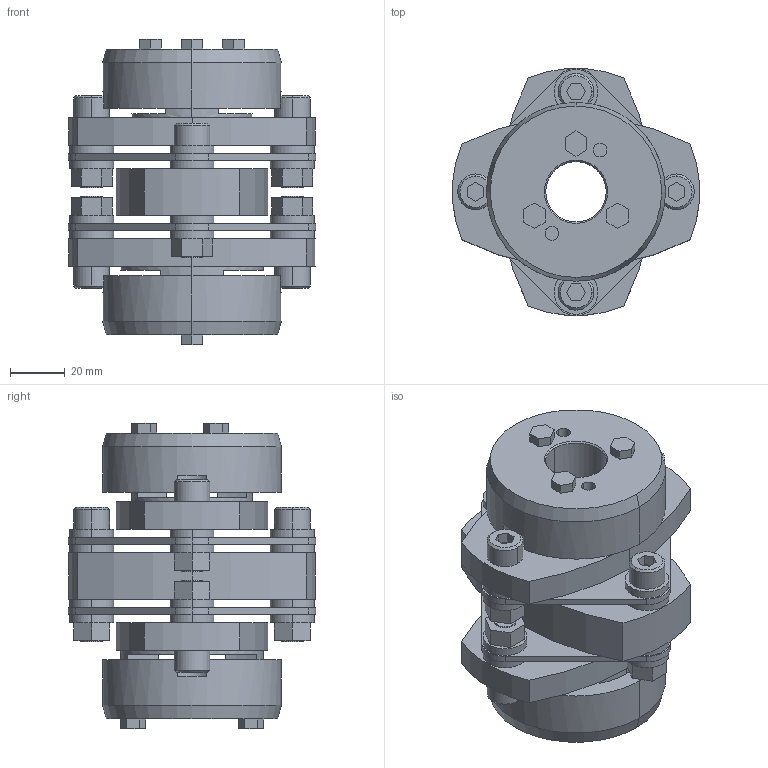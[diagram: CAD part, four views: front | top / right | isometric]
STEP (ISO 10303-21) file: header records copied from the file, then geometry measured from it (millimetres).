
FILE_DESCRIPTION((''),'2;1');
FILE_NAME('LCD-90T7-22×28.stp','2015-11-01T20:06:07',(''),(''),'AutoCAD STEP 2000i','AutoCAD 2000i',', , ');
FILE_SCHEMA(('CONFIG_CONTROL_DESIGN'));
Length unit declared in the file: millimetre
Products named in the file (8): LCD-90T7-20×30; 忣兜1; LC90T7-T020; LC90T7-T030; LC90T7-T025; LC90T7-T019-1; LC90T7-T019; LCD90-ITA
Assembly tree (7 placements, depth 2):
  LCD-90T7-20×30
    忣兜1
    LC90T7-T020
    LC90T7-T030
    LC90T7-T025
    LC90T7-T019-1
    LC90T7-T019
    LCD90-ITA
Bounding box: 90 x 89.94 x 111 mm (x, y, z)
Volume: 290832.6 mm3; surface area: 76313.1 mm2
Topology: 1 solids, 1 shells, 321 faces, 786 edges, 516 vertices
Faces by surface type: plane 173, cylinder 124, cone 24
Entity records: 9749 total; most frequent: DIRECTION 1740, CARTESIAN_POINT 1631, ORIENTED_EDGE 1572, EDGE_CURVE 786, AXIS2_PLACEMENT_3D 625, VERTEX_POINT 516, VECTOR 490, LINE 490
